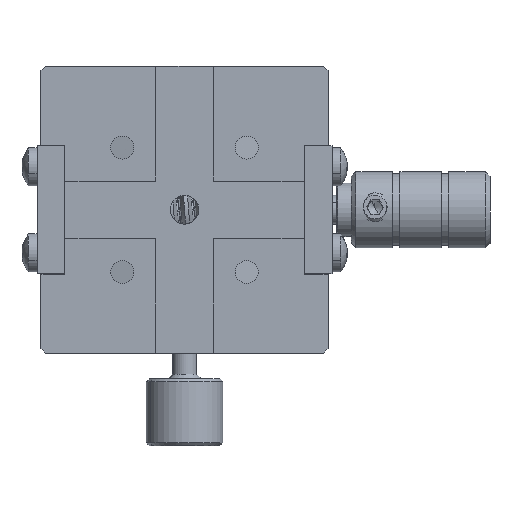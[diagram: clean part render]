
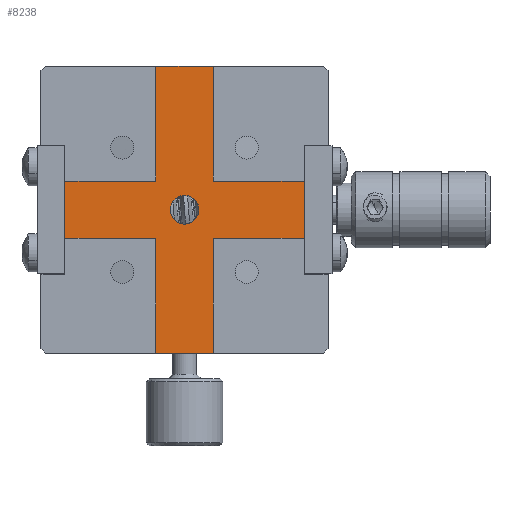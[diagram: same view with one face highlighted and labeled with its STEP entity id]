
A CAD part, front view. The second image highlights one B-rep face of the part: STEP entity #8238.
In plain terms, the highlighted planar face has unit normal (0, -1, 0).
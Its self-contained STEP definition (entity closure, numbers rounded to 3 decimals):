
#268 = CARTESIAN_POINT ( 'NONE',  ( 24.522, 51.174, 34.097 ) ) ;
#432 = ORIENTED_EDGE ( 'NONE', *, *, #13898, .T. ) ;
#936 = CARTESIAN_POINT ( 'NONE',  ( 20.022, 51.174, 19.097 ) ) ;
#1017 = EDGE_CURVE ( 'NONE', #2485, #5221, #2031, .T. ) ;
#1204 = DIRECTION ( 'NONE',  ( 1., 0., 0. ) ) ;
#1811 = EDGE_CURVE ( 'NONE', #12080, #20904, #28303, .T. ) ;
#2031 = CIRCLE ( 'NONE', #2499, 1.5 ) ;
#2485 = VERTEX_POINT ( 'NONE', #268 ) ;
#2499 = AXIS2_PLACEMENT_3D ( 'NONE', #3349, #25239, #5370 ) ;
#2513 = FACE_BOUND ( 'NONE', #21260, .T. ) ;
#2546 = VECTOR ( 'NONE', #22035, 1000. ) ;
#2903 = VERTEX_POINT ( 'NONE', #936 ) ;
#2939 = DIRECTION ( 'NONE',  ( 0., -1., 0. ) ) ;
#3019 = ORIENTED_EDGE ( 'NONE', *, *, #1017, .F. ) ;
#3169 = CARTESIAN_POINT ( 'NONE',  ( 20.022, 51.174, 49.097 ) ) ;
#3349 = CARTESIAN_POINT ( 'NONE',  ( 23.022, 51.174, 34.097 ) ) ;
#3880 = ORIENTED_EDGE ( 'NONE', *, *, #18640, .T. ) ;
#4040 = DIRECTION ( 'NONE',  ( 0., 0., 1. ) ) ;
#4116 = PLANE ( 'NONE',  #25089 ) ;
#4352 = CARTESIAN_POINT ( 'NONE',  ( 23.022, 51.174, 31.097 ) ) ;
#4356 = EDGE_CURVE ( 'NONE', #20904, #14701, #12970, .T. ) ;
#4449 = LINE ( 'NONE', #15194, #10831 ) ;
#4635 = DIRECTION ( 'NONE',  ( 0., 0., 1. ) ) ;
#4896 = EDGE_CURVE ( 'NONE', #2903, #7427, #20319, .T. ) ;
#5045 = ORIENTED_EDGE ( 'NONE', *, *, #10771, .T. ) ;
#5181 = CARTESIAN_POINT ( 'NONE',  ( 20.022, 51.174, 31.097 ) ) ;
#5221 = VERTEX_POINT ( 'NONE', #10442 ) ;
#5288 = ORIENTED_EDGE ( 'NONE', *, *, #12505, .T. ) ;
#5370 = DIRECTION ( 'NONE',  ( 1., 0., 0. ) ) ;
#6099 = DIRECTION ( 'NONE',  ( 1., 0., 0. ) ) ;
#6262 = EDGE_LOOP ( 'NONE', ( #432, #11174, #10330, #27173, #3880, #12517, #19095, #5288, #10963, #12442, #9097, #5045 ) ) ;
#6654 = CARTESIAN_POINT ( 'NONE',  ( 35.522, 51.174, 29.347 ) ) ;
#7427 = VERTEX_POINT ( 'NONE', #12893 ) ;
#7571 = DIRECTION ( 'NONE',  ( 0., -1., 0. ) ) ;
#7609 = VERTEX_POINT ( 'NONE', #26642 ) ;
#7800 = AXIS2_PLACEMENT_3D ( 'NONE', #8922, #7571, #22414 ) ;
#8046 = DIRECTION ( 'NONE',  ( -1., 0., 0. ) ) ;
#8238 = ADVANCED_FACE ( 'NONE', ( #2513, #23973 ), #4116, .T. ) ;
#8252 = VERTEX_POINT ( 'NONE', #16002 ) ;
#8477 = CARTESIAN_POINT ( 'NONE',  ( 62.522, 51.174, 49.097 ) ) ;
#8658 = LINE ( 'NONE', #19403, #28639 ) ;
#8922 = CARTESIAN_POINT ( 'NONE',  ( 23.022, 51.174, 34.097 ) ) ;
#9097 = ORIENTED_EDGE ( 'NONE', *, *, #9667, .F. ) ;
#9175 = VECTOR ( 'NONE', #21113, 1000. ) ;
#9283 = LINE ( 'NONE', #15658, #11639 ) ;
#9667 = EDGE_CURVE ( 'NONE', #7609, #27179, #23083, .T. ) ;
#9812 = CARTESIAN_POINT ( 'NONE',  ( 10.522, 51.174, 31.097 ) ) ;
#9817 = LINE ( 'NONE', #15804, #9175 ) ;
#9901 = CARTESIAN_POINT ( 'NONE',  ( 23.022, 51.174, 37.097 ) ) ;
#10279 = VERTEX_POINT ( 'NONE', #17118 ) ;
#10330 = ORIENTED_EDGE ( 'NONE', *, *, #1811, .F. ) ;
#10442 = CARTESIAN_POINT ( 'NONE',  ( 21.522, 51.174, 34.097 ) ) ;
#10521 = EDGE_CURVE ( 'NONE', #27179, #10279, #12918, .T. ) ;
#10771 = EDGE_CURVE ( 'NONE', #7609, #25383, #9283, .T. ) ;
#10831 = VECTOR ( 'NONE', #10977, 1000. ) ;
#10963 = ORIENTED_EDGE ( 'NONE', *, *, #13112, .T. ) ;
#10977 = DIRECTION ( 'NONE',  ( 0., 0., 1. ) ) ;
#11051 = VECTOR ( 'NONE', #19860, 1000. ) ;
#11174 = ORIENTED_EDGE ( 'NONE', *, *, #4356, .F. ) ;
#11639 = VECTOR ( 'NONE', #4635, 1000. ) ;
#11770 = DIRECTION ( 'NONE',  ( 1., 0., 0. ) ) ;
#12080 = VERTEX_POINT ( 'NONE', #28414 ) ;
#12442 = ORIENTED_EDGE ( 'NONE', *, *, #10521, .F. ) ;
#12505 = EDGE_CURVE ( 'NONE', #7427, #8252, #8658, .T. ) ;
#12517 = ORIENTED_EDGE ( 'NONE', *, *, #17164, .F. ) ;
#12720 = VERTEX_POINT ( 'NONE', #5181 ) ;
#12772 = CARTESIAN_POINT ( 'NONE',  ( 20.022, 51.174, 37.097 ) ) ;
#12893 = CARTESIAN_POINT ( 'NONE',  ( 26.022, 51.174, 19.097 ) ) ;
#12918 = LINE ( 'NONE', #6654, #2546 ) ;
#12970 = LINE ( 'NONE', #21803, #15524 ) ;
#13002 = EDGE_CURVE ( 'NONE', #5221, #2485, #24948, .T. ) ;
#13112 = EDGE_CURVE ( 'NONE', #8252, #10279, #23938, .T. ) ;
#13898 = EDGE_CURVE ( 'NONE', #25383, #14701, #15153, .T. ) ;
#13982 = DIRECTION ( 'NONE',  ( 1., 0., 0. ) ) ;
#14242 = CARTESIAN_POINT ( 'NONE',  ( 23.022, 51.174, 34.097 ) ) ;
#14701 = VERTEX_POINT ( 'NONE', #3169 ) ;
#14973 = VECTOR ( 'NONE', #1204, 1000. ) ;
#15153 = LINE ( 'NONE', #8477, #21289 ) ;
#15194 = CARTESIAN_POINT ( 'NONE',  ( 10.522, 51.174, 34.097 ) ) ;
#15524 = VECTOR ( 'NONE', #16294, 1000. ) ;
#15658 = CARTESIAN_POINT ( 'NONE',  ( 26.022, 51.174, 34.097 ) ) ;
#15804 = CARTESIAN_POINT ( 'NONE',  ( 20.022, 51.174, 34.097 ) ) ;
#16002 = CARTESIAN_POINT ( 'NONE',  ( 26.022, 51.174, 31.097 ) ) ;
#16294 = DIRECTION ( 'NONE',  ( 0., 0., 1. ) ) ;
#17118 = CARTESIAN_POINT ( 'NONE',  ( 35.522, 51.174, 31.097 ) ) ;
#17164 = EDGE_CURVE ( 'NONE', #2903, #12720, #9817, .T. ) ;
#18262 = VECTOR ( 'NONE', #13982, 1000. ) ;
#18640 = EDGE_CURVE ( 'NONE', #25795, #12720, #20012, .T. ) ;
#18938 = VECTOR ( 'NONE', #6099, 1000. ) ;
#19029 = CARTESIAN_POINT ( 'NONE',  ( 23.022, 51.174, 37.097 ) ) ;
#19095 = ORIENTED_EDGE ( 'NONE', *, *, #4896, .T. ) ;
#19403 = CARTESIAN_POINT ( 'NONE',  ( 26.022, 51.174, 34.097 ) ) ;
#19860 = DIRECTION ( 'NONE',  ( 1., 0., 0. ) ) ;
#20012 = LINE ( 'NONE', #4352, #11051 ) ;
#20319 = LINE ( 'NONE', #27121, #26609 ) ;
#20608 = CARTESIAN_POINT ( 'NONE',  ( 26.022, 51.174, 49.097 ) ) ;
#20904 = VERTEX_POINT ( 'NONE', #12772 ) ;
#20917 = DIRECTION ( 'NONE',  ( 1., 0., 0. ) ) ;
#21113 = DIRECTION ( 'NONE',  ( 0., 0., 1. ) ) ;
#21260 = EDGE_LOOP ( 'NONE', ( #3019, #24003 ) ) ;
#21289 = VECTOR ( 'NONE', #8046, 1000. ) ;
#21803 = CARTESIAN_POINT ( 'NONE',  ( 20.022, 51.174, 34.097 ) ) ;
#22035 = DIRECTION ( 'NONE',  ( 0., 0., -1. ) ) ;
#22414 = DIRECTION ( 'NONE',  ( 1., 0., 0. ) ) ;
#23083 = LINE ( 'NONE', #9901, #18262 ) ;
#23736 = CARTESIAN_POINT ( 'NONE',  ( 35.522, 51.174, 37.097 ) ) ;
#23938 = LINE ( 'NONE', #28284, #18938 ) ;
#23973 = FACE_OUTER_BOUND ( 'NONE', #6262, .T. ) ;
#24003 = ORIENTED_EDGE ( 'NONE', *, *, #13002, .F. ) ;
#24948 = CIRCLE ( 'NONE', #7800, 1.5 ) ;
#25089 = AXIS2_PLACEMENT_3D ( 'NONE', #14242, #2939, #20917 ) ;
#25239 = DIRECTION ( 'NONE',  ( 0., -1., 0. ) ) ;
#25383 = VERTEX_POINT ( 'NONE', #20608 ) ;
#25466 = EDGE_CURVE ( 'NONE', #25795, #12080, #4449, .T. ) ;
#25795 = VERTEX_POINT ( 'NONE', #9812 ) ;
#26609 = VECTOR ( 'NONE', #11770, 1000. ) ;
#26642 = CARTESIAN_POINT ( 'NONE',  ( 26.022, 51.174, 37.097 ) ) ;
#27121 = CARTESIAN_POINT ( 'NONE',  ( 70.022, 51.174, 19.097 ) ) ;
#27173 = ORIENTED_EDGE ( 'NONE', *, *, #25466, .F. ) ;
#27179 = VERTEX_POINT ( 'NONE', #23736 ) ;
#28284 = CARTESIAN_POINT ( 'NONE',  ( 23.022, 51.174, 31.097 ) ) ;
#28303 = LINE ( 'NONE', #19029, #14973 ) ;
#28414 = CARTESIAN_POINT ( 'NONE',  ( 10.522, 51.174, 37.097 ) ) ;
#28639 = VECTOR ( 'NONE', #4040, 1000. ) ;
